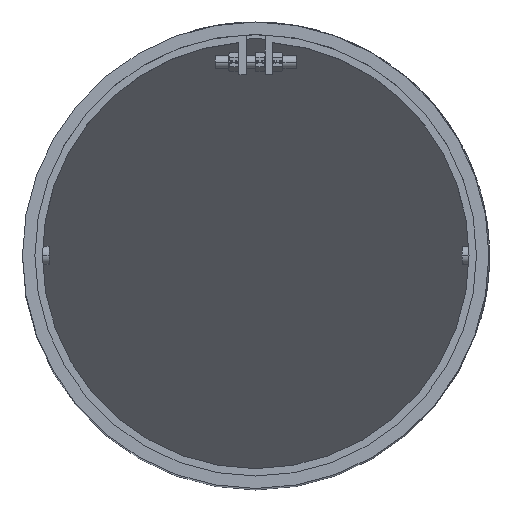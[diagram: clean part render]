
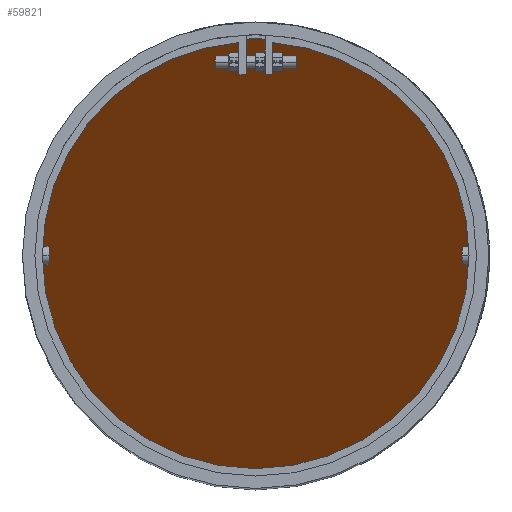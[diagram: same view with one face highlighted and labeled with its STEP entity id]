
A CAD part, top view. The second image highlights one B-rep face of the part: STEP entity #59821.
In plain terms, the highlighted planar face has unit normal (0, -0.707, 0.707).
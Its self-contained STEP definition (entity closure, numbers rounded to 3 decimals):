
#6 = CARTESIAN_POINT ( 'NONE',  ( -174.5, 0., 352.828 ) ) ;
#4014 = CARTESIAN_POINT ( 'NONE',  ( -174.5, -349., 3.828 ) ) ;
#12688 = EDGE_LOOP ( 'NONE', ( #40909, #18027 ) ) ;
#16449 = EDGE_CURVE ( 'NONE', #26739, #80289, #39114, .T. ) ;
#17673 = DIRECTION ( 'NONE',  ( 0., 0.707, -0.707 ) ) ;
#18027 = ORIENTED_EDGE ( 'NONE', *, *, #74939, .T. ) ;
#21879 = AXIS2_PLACEMENT_3D ( 'NONE', #55936, #17673, #42824 ) ;
#26739 = VERTEX_POINT ( 'NONE', #6 ) ;
#30222 =( BOUNDED_CURVE ( )  B_SPLINE_CURVE ( 3, ( #76366, #44590, #69756, #49989 ),
 .UNSPECIFIED., .F., .F. ) 
 B_SPLINE_CURVE_WITH_KNOTS ( ( 4, 4 ),
 ( 1.571, 4.712 ),
 .UNSPECIFIED. ) 
 CURVE ( )  GEOMETRIC_REPRESENTATION_ITEM ( )  RATIONAL_B_SPLINE_CURVE ( ( 1., 0.333, 0.333, 1. ) ) 
 REPRESENTATION_ITEM ( '' )  );
#36709 = CARTESIAN_POINT ( 'NONE',  ( 174.5, 0., 352.828 ) ) ;
#39114 =( BOUNDED_CURVE ( )  B_SPLINE_CURVE ( 3, ( #41504, #4014, #66227, #61228 ),
 .UNSPECIFIED., .F., .T. ) 
 B_SPLINE_CURVE_WITH_KNOTS ( ( 4, 4 ),
 ( 4.712, 7.854 ),
 .UNSPECIFIED. ) 
 CURVE ( )  GEOMETRIC_REPRESENTATION_ITEM ( )  RATIONAL_B_SPLINE_CURVE ( ( 1., 0.333, 0.333, 1. ) ) 
 REPRESENTATION_ITEM ( '' )  );
#40909 = ORIENTED_EDGE ( 'NONE', *, *, #16449, .T. ) ;
#41504 = CARTESIAN_POINT ( 'NONE',  ( -174.5, 0., 352.828 ) ) ;
#41989 = PLANE ( 'NONE',  #21879 ) ;
#42824 = DIRECTION ( 'NONE',  ( 0., 0.707, 0.707 ) ) ;
#44590 = CARTESIAN_POINT ( 'NONE',  ( 174.5, 349., 701.828 ) ) ;
#49989 = CARTESIAN_POINT ( 'NONE',  ( -174.5, 0., 352.828 ) ) ;
#55936 = CARTESIAN_POINT ( 'NONE',  ( 588.862, -176.414, 176.414 ) ) ;
#59821 = ADVANCED_FACE ( 'NONE', ( #80293 ), #41989, .F. ) ;
#61228 = CARTESIAN_POINT ( 'NONE',  ( 174.5, 0., 352.828 ) ) ;
#66227 = CARTESIAN_POINT ( 'NONE',  ( 174.5, -349., 3.828 ) ) ;
#69756 = CARTESIAN_POINT ( 'NONE',  ( -174.5, 349., 701.828 ) ) ;
#74939 = EDGE_CURVE ( 'NONE', #80289, #26739, #30222, .T. ) ;
#76366 = CARTESIAN_POINT ( 'NONE',  ( 174.5, 0., 352.828 ) ) ;
#80289 = VERTEX_POINT ( 'NONE', #36709 ) ;
#80293 = FACE_OUTER_BOUND ( 'NONE', #12688, .T. ) ;
